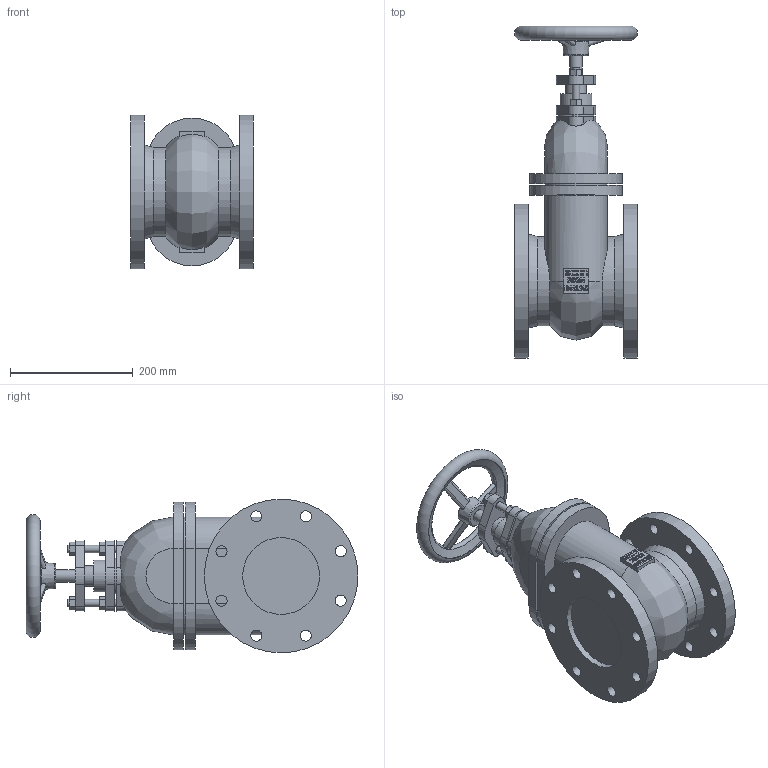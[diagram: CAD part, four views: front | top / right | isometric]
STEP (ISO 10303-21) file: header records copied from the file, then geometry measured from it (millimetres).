
FILE_DESCRIPTION(/* description */ (''),/* implementation_level */ '2;1');
FILE_NAME(/* name */ '292NOD-DN125-PN16 - 11810878.stp',/* time_stamp */ '2024-06-20T14:21:59+02:00',/* author */ ('roger.thijssen'),/* organization */ (''),/* preprocessor_version */ 'ST-DEVELOPER v20',/* originating_system */ 'Autodesk Inventor 2024',/* authorisation */ '');
FILE_SCHEMA (('AUTOMOTIVE_DESIGN { 1 0 10303 214 3 1 1 }'));
Length unit declared in the file: millimetre
Products named in the file (1): 292N-DN125-PN16 - 11810878
Bounding box: 200 x 540 x 250 mm (x, y, z)
Volume: 9177308.4 mm3; surface area: 540533.5 mm2
Topology: 1 solids, 1 shells, 369 faces, 977 edges, 648 vertices
Faces by surface type: plane 211, bspline 79, cylinder 68, cone 7, torus 4
Full cylindrical faces by diameter (mm): 12 x6, 18 x16, 20 x1, 25 x1, 34 x1, 52 x1, 60 x1, 125 x2, 145 x2, 177 x2, 250 x2
Entity records: 13063 total; most frequent: CARTESIAN_POINT 3770, ORIENTED_EDGE 1954, DIRECTION 1546, EDGE_CURVE 977, VERTEX_POINT 648, LINE 624, VECTOR 624, AXIS2_PLACEMENT_3D 461
